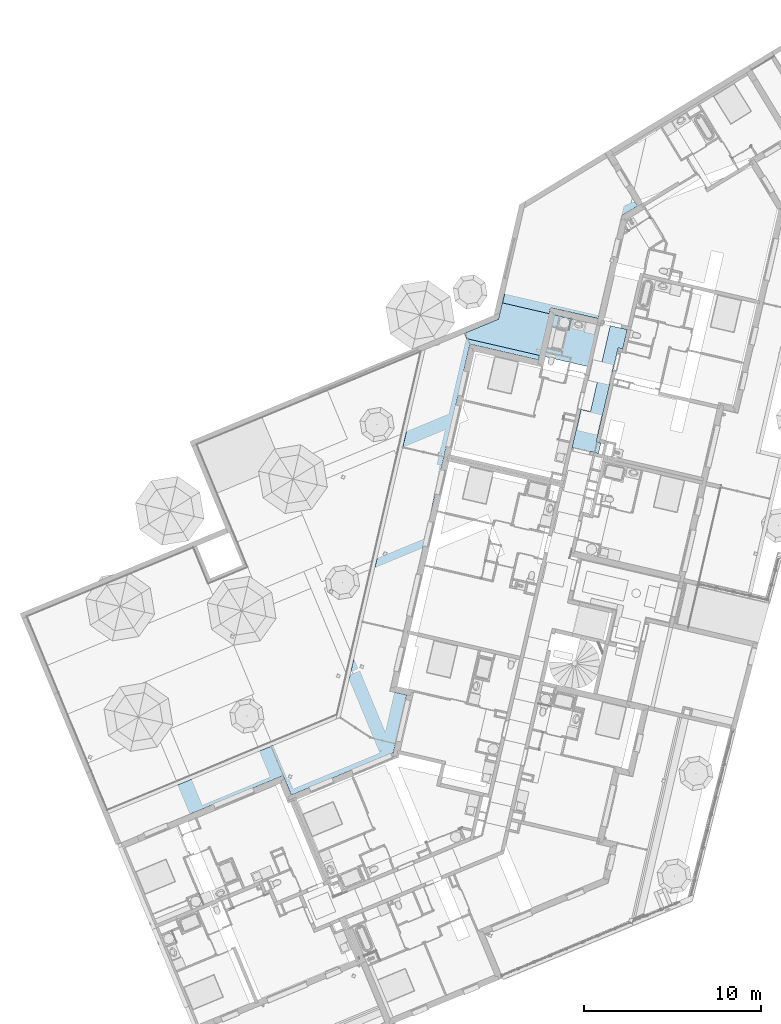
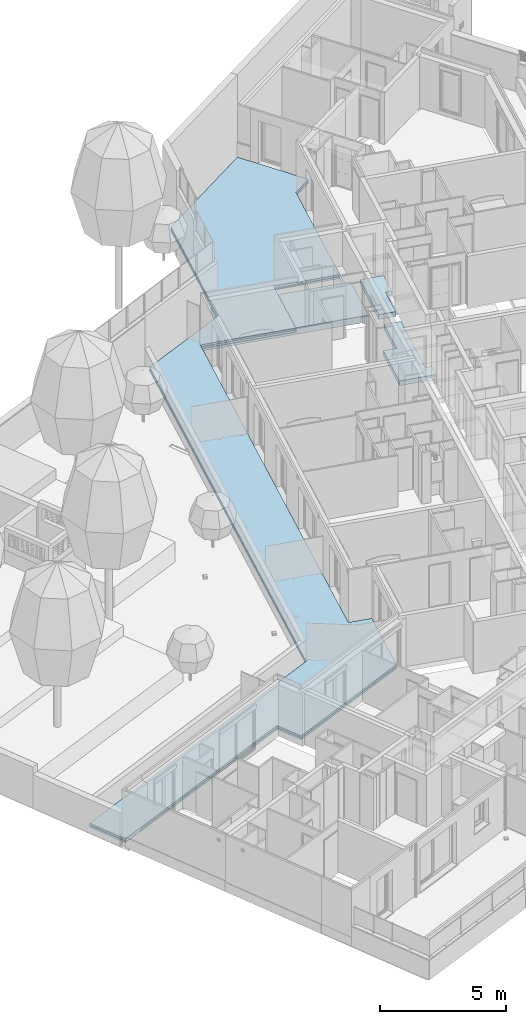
# One storey, part 5 of 119: 4 slabs.
"""IFC2X3 building model written with IfcOpenShell, lengths in metres."""

from ifc_helpers import new_model, entity, si_unit, converted_unit, derived_unit, money_unit, direction, frame, origin_with_axes, place, context, subcontext, project, spatial, faceted_brep, material, material_list, type_object, element, save


model = new_model("IFC2X3")

# Units and contexts
model_context = context("Model", 3, precision=1e-05, world=origin_with_axes(), true_north=direction((0.0, 1.0)))
body_context = subcontext(model_context, "Body", "Model", "MODEL_VIEW")
ifc_project = project(units=[si_unit("LENGTHUNIT", "METRE"), si_unit("AREAUNIT", "SQUARE_METRE"), si_unit("VOLUMEUNIT", "CUBIC_METRE"), converted_unit("PLANEANGLEUNIT", "DEGREE", entity("IfcPlaneAngleMeasure", 0.0174532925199), si_unit("PLANEANGLEUNIT", "RADIAN"), dimensions=[0, 0, 0, 0, 0, 0, 0]), si_unit("SOLIDANGLEUNIT", "STERADIAN"), money_unit("EUR"), converted_unit("TIMEUNIT", "Year", entity("IfcTimeMeasure", 31556926.0), si_unit("TIMEUNIT", "SECOND"), dimensions=[0, 0, 1, 0, 0, 0, 0]), si_unit("MASSUNIT", "GRAM", prefix="KILO"), si_unit("THERMODYNAMICTEMPERATUREUNIT", "DEGREE_CELSIUS"), si_unit("LUMINOUSINTENSITYUNIT", "LUMEN"), si_unit("ENERGYUNIT", "JOULE", prefix="MEGA"), derived_unit("THERMALCONDUCTANCEUNIT", [(si_unit("POWERUNIT", "WATT"), 1), (si_unit("LENGTHUNIT", "METRE"), -1), (si_unit("THERMODYNAMICTEMPERATUREUNIT", "KELVIN"), -1)]), derived_unit("SPECIFICHEATCAPACITYUNIT", [(si_unit("ENERGYUNIT", "JOULE"), 1), (si_unit("MASSUNIT", "GRAM", prefix="KILO"), -1), (si_unit("THERMODYNAMICTEMPERATUREUNIT", "KELVIN"), -1)]), derived_unit("MASSDENSITYUNIT", [(si_unit("MASSUNIT", "GRAM", prefix="KILO"), 1), (si_unit("VOLUMEUNIT", "CUBIC_METRE"), -1)])], contexts=[model_context])

# Site, building, storey
site_placement = place(None, origin_with_axes())
site = spatial("IfcSite", under=ifc_project, at=site_placement, Name="Site", CompositionType="ELEMENT")
building_placement = place(site_placement, origin_with_axes())
building = spatial("IfcBuilding", under=site, at=building_placement, Name="Bâtiment", CompositionType="ELEMENT")
storey_placement = place(building_placement, origin_with_axes())
storey = spatial("IfcBuildingStorey", under=building, at=storey_placement, Name="Rez-de-chaussée", CompositionType="ELEMENT", Elevation=0.0)

# Slabs
ifc_material_1 = material(Name="Finition sol - Dalles terrasse")
ifc_material_2 = material(Name="Divers - Vide")
ifc_material_list_1 = material_list([ifc_material_1, ifc_material_2])
slab_type_1 = type_object("IfcSlabType", Name="6 -Dalles sur plots terrasse du RDC 170", PredefinedType="FLOOR")
slab_1_placement = place(storey_placement, frame((-35.1881854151, -17.8504869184, 0.180000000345), z_axis=(0.0, 0.0, 1.0), x_axis=(1.0, 0.0, 0.0)))
element("IfcSlab", 1, at=slab_1_placement, inside=storey, type_object=slab_type_1, material=ifc_material_list_1, Name="Dalle_006", PredefinedType="FLOOR", context=body_context, shape_type="Brep", body=[
    faceted_brep([(0.905463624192, 0.387932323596, -0.0463667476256), (0.905463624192, 0.387932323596, -0.0170687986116), (0.909846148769, 0.377365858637, -0.0136751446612), (0.909846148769, 0.377365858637, -0.0150858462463), (0.905936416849, 0.386792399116, -0.0181473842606), (0.905936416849, 0.386792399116, -0.0463667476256), (9.17670947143, 3.81849669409, -0.0463667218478), (9.17670947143, 3.81849669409, -0.0170688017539), (9.17045879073, 3.80338639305, -0.0136385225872), (9.17041054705, 3.80350002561, -0.0136751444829), (0.0, 0.0, 0.0), (0.0, 0.0, -0.05), (9.17041054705, 3.80350002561, -0.05), (9.17041054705, 3.80350002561, -0.015085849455), (9.17041055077, 3.80350001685, -0.00346765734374), (9.17041054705, 3.80350002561, 0.0), (9.1704587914, 3.80338639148, -0.0150488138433), (9.17604232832, 3.81688397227, -0.0181473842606), (9.17604232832, 3.81688397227, -0.0199999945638), (9.17604232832, 3.81688397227, -0.0463667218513), (9.63530457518, 2.70958188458, -0.0463667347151), (9.63577736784, 2.7084419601, -0.0463667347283), (15.3999767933, 5.09918906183, -0.0463667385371), (15.4003177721, 5.10066652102, -0.0463667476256), (9.63644451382, 2.71005468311, -0.0463667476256), (9.17718226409, 3.81735676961, -0.0463667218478), (9.63644451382, 2.71005468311, -0.0199999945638), (9.63644451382, 2.71005468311, -0.0170687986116), (9.17855966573, 3.81403579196, -0.0170688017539), (9.63555505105, 2.70790451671, -0.0165806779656), (9.63938261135, 2.69888912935, -0.0136751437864), (9.63938261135, 2.69888912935, 0.0), (9.17624918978, 3.78974776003, 0.0), (9.17624934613, 3.78974739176, -0.00346765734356), (-0.687687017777, 1.65804450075, -0.05), (-0.687687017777, 1.65804450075, 0.0), (12.3845724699, 7.07986711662, -0.05), (12.4015901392, 7.08692532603, -0.05), (17.2197353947, 27.8972189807, -0.05), (21.368233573, 29.617847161, -0.05), (22.8194481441, 35.9059519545, -0.05), (27.5369067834, 38.7732079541, -0.05), (27.8409387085, 38.2729882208, -0.05), (27.8537489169, 38.2807742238, -0.05), (29.2221063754, 36.0293555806, -0.05), (28.3376474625, 35.4917843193, -0.05), (26.9938495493, 29.6691153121, -0.05), (24.3008649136, 30.2752276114, -0.05), (23.6195083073, 27.3229131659, -0.05), (19.7414466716, 28.2179204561, -0.05), (15.2098613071, 8.5825858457, -0.05), (16.1647787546, 8.36220304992, -0.05), (15.4101189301, 5.09234747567, -0.05), (9.63938261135, 2.69888912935, -0.05), (9.63938261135, 2.69888912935, -0.0150858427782), (9.63555504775, 2.70790452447, -0.0180240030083), (9.63491203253, 2.70941907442, -0.0180198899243), (9.17052555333, 3.80354771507, -0.00346765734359), (9.17052555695, 3.80354771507, 0.0), (15.4101189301, 5.09234747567, 0.0), (16.1647787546, 8.36220304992, 0.0), (15.2098613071, 8.5825858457, 0.0), (19.7414466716, 28.2179204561, 0.0), (23.6195083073, 27.3229131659, 0.0), (24.3008649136, 30.2752276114, 0.0), (24.3008831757, 30.2753068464, 0.0), (24.315462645, 30.2719420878, 0.0), (26.9938495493, 29.6691153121, 0.0), (28.3376474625, 35.4917843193, 0.0), (29.2221063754, 36.0293555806, 0.0), (27.8537140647, 38.2807530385, 0.0), (27.8409387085, 38.2729882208, 0.0), (27.5369067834, 38.7732079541, 0.0), (22.8194481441, 35.9059519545, 0.0), (21.368233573, 29.617847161, 0.0), (17.2197353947, 27.8972189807, 0.0), (12.4015901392, 7.08692532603, 0.0), (12.3845724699, 7.07986711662, 0.0), (9.63577736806, 2.70844195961, -0.0181473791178), (9.6353045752, 2.70958188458, -0.0181473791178), (9.6353045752, 2.70958188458, -0.0199999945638), (9.63577736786, 2.7084419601, -0.0199999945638), (15.3999767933, 5.09918906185, -0.0181473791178), (15.3999767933, 5.09918906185, -0.0199999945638), (15.4013773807, 5.09976996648, -0.0199999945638), (15.4013773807, 5.09976996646, -0.0463667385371), (15.1961426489, 8.57401200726, -0.0463667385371), (16.1510601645, 8.35362919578, -0.0463667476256), (16.1522626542, 8.35335167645, -0.0463667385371), (16.1525401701, 8.35455415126, -0.0463667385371), (15.197622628, 8.57493696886, -0.0463667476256), (18.2597186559, 21.8429822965, -0.0463667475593), (18.2585161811, 21.8432598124, -0.0463667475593), (15.1964201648, 8.57521448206, -0.0463667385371), (15.4003177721, 5.10066652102, -0.0199999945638), (15.4003177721, 5.10066652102, -0.0170687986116), (15.4101240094, 5.09236948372, -0.0136805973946), (15.4101189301, 5.09234747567, -0.0136805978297), (27.8537140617, 38.2807530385, -0.00346766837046), (27.8537489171, 38.2807742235, -0.00346766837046), (27.8537489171, 38.2807742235, -0.0136630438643), (27.8439387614, 38.2748116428, -0.0170687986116), (27.8439387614, 38.2748116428, -0.0463667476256), (27.8449933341, 38.2754526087, -0.0463667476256), (27.8449933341, 38.2754526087, -0.0181473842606), (27.8537489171, 38.2807742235, -0.0150736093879), (29.2221063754, 36.0293555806, -0.0150857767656), (28.3376474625, 35.4917843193, -0.0150858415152), (26.9938495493, 29.6691153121, -0.0150858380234), (24.3008649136, 30.2752276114, -0.0150858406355), (26.9838932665, 29.671356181, -0.0181473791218), (26.9838932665, 29.671356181, -0.0463667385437), (26.9826892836, 29.6716271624, -0.0463667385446), (26.9826892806, 29.6716271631, -0.0170687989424), (26.9938495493, 29.6691153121, -0.0136751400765), (24.3154630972, 30.271941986, -0.00346766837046), (24.3008649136, 30.2752276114, -0.00346766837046), (24.3008649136, 30.2752276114, -0.0136751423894), (24.3009438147, 30.275209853, -0.0136511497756), (26.3691788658, 29.8097104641, -0.0170687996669), (26.3691788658, 29.8097104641, -0.046366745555), (26.1476212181, 29.8595766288, -0.0463667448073), (26.1476212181, 29.8595766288, -0.0181473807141), (24.3009438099, 30.2752098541, -0.0150615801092), (23.6195083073, 27.3229131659, -0.0150858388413), (19.7414466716, 28.2179204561, -0.0150858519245), (15.2098613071, 8.5825858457, -0.0150858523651), (18.2719111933, 21.8504312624, -0.0150858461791), (18.2719111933, 21.8504312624, -0.0136751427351), (19.7414467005, 28.2179204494, -0.013675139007), (15.2098613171, 8.58258584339, -0.0136751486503), (18.2696624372, 21.8406873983, -0.0136751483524), (18.2696624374, 21.8406873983, -0.0150858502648), (16.1647787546, 8.36220304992, -0.0150858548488), (15.4101240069, 5.09236947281, -0.0150913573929), (15.4101189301, 5.09234747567, -0.0150858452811), (15.4013773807, 5.09976996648, -0.0181473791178), (16.1647787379, 8.36220297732, -0.0136751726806), (23.6195083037, 27.3229131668, -0.0136751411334), (24.3008831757, 30.2753068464, -0.00346766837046), (28.3376474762, 35.4917843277, -0.0136751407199), (29.2221063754, 36.0293555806, -0.0136751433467), (29.2221061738, 36.029355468, -0.00346766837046), (16.1522626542, 8.35335167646, -0.0181473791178), (16.1522626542, 8.35335167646, -0.0199999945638), (16.1525401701, 8.35455415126, -0.0199999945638), (15.1961426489, 8.57401200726, -0.017068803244), (16.1510601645, 8.35362919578, -0.0170687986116), (16.1510601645, 8.35362919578, -0.0199999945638), (16.1525401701, 8.35455415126, -0.0181473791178), (15.197622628, 8.57493696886, -0.0181473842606), (18.2597186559, 21.8429822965, -0.0181473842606), (18.2585161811, 21.8432598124, -0.0170687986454), (15.1972286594, 8.57871768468, -0.017068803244), (29.206389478, 36.0331893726, -0.0170687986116), (29.206389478, 36.0331893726, -0.0199999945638), (29.206389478, 36.0331893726, -0.0463667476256), (28.3286710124, 35.4982707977, -0.0463667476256), (29.2080850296, 36.0327757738, -0.0463667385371), (29.2074440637, 36.0338303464, -0.0463667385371), (28.3275855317, 35.4990551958, -0.0463667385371), (28.3271978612, 35.4973754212, -0.0463667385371), (29.2080850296, 36.0327757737, -0.0199999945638), (29.2074440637, 36.0338303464, -0.0199999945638), (29.2074440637, 36.0338303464, -0.0181473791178), (29.2080850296, 36.0327757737, -0.0181473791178), (28.3286710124, 35.4982707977, -0.0181473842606), (28.3286710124, 35.4982707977, -0.0199999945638), (28.3275855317, 35.4990551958, -0.017068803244), (28.3260684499, 35.4924816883, -0.017068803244), (23.6109344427, 27.3366318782, -0.0170687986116), (24.2912233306, 30.2843198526, -0.017068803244), (24.2923093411, 30.28902553, -0.017068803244), (24.2923093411, 30.28902553, -0.0463667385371), (23.611735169, 27.3401014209, -0.0463667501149), (23.6129376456, 27.3398239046, -0.0463667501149), (24.2932342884, 30.287545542, -0.0463667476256), (24.2920318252, 30.2878230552, -0.0463667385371), (24.2932342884, 30.287545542, -0.0199999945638), (24.2932342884, 30.287545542, -0.0181473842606), (23.6118593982, 27.3351518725, -0.0181473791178), (23.6106569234, 27.3354293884, -0.0181473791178), (19.7337977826, 28.2301591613, -0.0181473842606), (18.2619673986, 21.8527261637, -0.0181473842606), (18.2619673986, 21.8527261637, -0.0463667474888), (18.2607649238, 21.8530036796, -0.0463667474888), (18.2607649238, 21.8530036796, -0.0170687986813), (19.7317868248, 28.2269334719, -0.017068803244), (19.7328728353, 28.2316391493, -0.017068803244), (23.6109344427, 27.3366318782, -0.0199999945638), (23.6109344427, 27.3366318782, -0.0463667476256), (19.7337977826, 28.2301591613, -0.0463667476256), (23.6106569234, 27.3354293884, -0.0463667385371), (23.6118593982, 27.3351518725, -0.0463667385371), (19.7328728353, 28.2316391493, -0.0463667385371), (19.7325953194, 28.2304366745, -0.0463667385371), (23.6118593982, 27.3351518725, -0.0199999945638), (23.6106569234, 27.3354293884, -0.0199999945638)], [[[0, 1, 2, 3, 4, 5]], [[1, 0, 6, 7]], [[2, 1, 7, 8, 9]], [[10, 11, 12, 13, 3, 2, 9, 14, 15]], [[4, 3, 13, 16, 17]], [[5, 4, 17, 18, 19]], [[0, 5, 19, 20, 21, 22, 23, 24, 25, 6]], [[6, 25, 24, 26, 27, 28, 7]], [[29, 8, 7, 28, 27]], [[8, 29, 30, 31, 32, 33, 14, 9]], [[34, 11, 10, 35]], [[11, 34, 36, 37, 38, 39, 40, 41, 42, 43, 44, 45, 46, 47, 48, 49, 50, 51, 52, 53, 12]], [[16, 13, 12, 53, 54, 55, 56]], [[14, 57, 58, 15]], [[35, 10, 15, 58, 32, 31, 59, 60, 61, 62, 63, 64, 65, 66, 67, 68, 69, 70, 71, 72, 73, 74, 75, 76, 77]], [[17, 16, 56, 55, 78, 79]], [[19, 18, 17, 79, 80, 81, 21, 20]], [[21, 81, 78, 82, 83, 84, 85, 22]], [[86, 87, 23, 22, 85, 88, 89, 90, 91, 92, 93]], [[26, 24, 23, 94, 95, 27]], [[29, 27, 95, 96, 97, 30]], [[31, 30, 97, 59]], [[32, 58, 57, 33]], [[57, 14, 33]], [[34, 35, 77, 36]], [[37, 36, 77, 76]], [[38, 37, 76, 75]], [[38, 75, 74, 39]], [[40, 39, 74, 73]], [[40, 73, 72, 41]], [[71, 42, 41, 72]], [[42, 71, 70, 98, 99, 100, 101, 102, 103, 104, 105, 43]], [[106, 44, 43, 105]], [[45, 44, 106, 107]], [[108, 46, 45, 107]], [[109, 47, 46, 108, 110, 111, 112, 113, 114, 67, 66, 115, 116, 117, 118, 119, 120, 121, 122, 123]], [[124, 48, 47, 109]], [[49, 48, 124, 125]], [[126, 50, 49, 125, 127, 128, 129, 62, 61, 130, 131, 132]], [[51, 50, 126, 133]], [[52, 51, 133, 134, 135]], [[54, 53, 52, 135]], [[78, 55, 54, 135, 134, 136, 82]], [[97, 96, 137, 60, 59]], [[130, 61, 60, 137]], [[129, 138, 63, 62]], [[63, 138, 117, 116, 64]], [[64, 116, 139, 65]], [[139, 115, 66, 65]], [[67, 114, 140, 68]], [[140, 141, 142, 69, 68]], [[69, 142, 98, 70]], [[79, 78, 81, 80]], [[84, 83, 82, 136]], [[85, 84, 136, 143, 144, 145, 89, 88]], [[87, 86, 146, 147, 148]], [[94, 23, 87, 148, 147, 95]], [[90, 89, 145, 149, 150]], [[90, 150, 151, 91]], [[91, 151, 132, 131, 152, 92]], [[86, 93, 92, 152, 153, 146]], [[95, 147, 137, 96]], [[98, 142, 99]], [[142, 141, 100, 99]], [[141, 154, 101, 100]], [[155, 156, 102, 101, 154]], [[112, 111, 157, 158, 159, 103, 102, 156, 160, 161]], [[159, 158, 162, 163, 164, 104, 103]], [[164, 165, 106, 105, 104]], [[166, 107, 106, 165]], [[110, 108, 107, 166]], [[111, 110, 166, 167, 157]], [[113, 112, 161, 160, 168, 169]], [[114, 113, 169, 168, 140]], [[139, 116, 115]], [[138, 170, 171, 172, 118, 117]], [[119, 118, 172]], [[172, 173, 120, 119]], [[174, 175, 176, 121, 120, 173, 177]], [[176, 178, 179, 122, 121]], [[123, 122, 179]], [[180, 124, 109, 123, 179]], [[181, 182, 125, 124, 180]], [[182, 183, 127, 125]], [[184, 185, 186, 128, 127, 183]], [[128, 186, 187, 188, 129]], [[146, 153, 152, 131, 130]], [[150, 126, 132, 151]], [[150, 149, 133, 126]], [[136, 134, 133, 149, 143]], [[147, 146, 130, 137]], [[138, 129, 188, 170]], [[140, 168, 154, 141]], [[145, 144, 143, 149]], [[160, 156, 155, 154, 168]], [[157, 167, 166, 165, 162, 158]], [[162, 165, 164, 163]], [[189, 190, 174, 177, 173, 172, 171, 170]], [[191, 192, 193, 175, 174, 190, 194, 195]], [[193, 196, 180, 179, 178, 176, 175]], [[192, 191, 182, 181, 197, 196, 193]], [[197, 181, 180, 196]], [[184, 183, 182, 191]], [[185, 184, 191, 195]], [[186, 185, 195, 194, 188, 187]], [[190, 189, 170, 188, 194]]]),
    faceted_brep([(27.5497248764, 38.7809987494, -0.130000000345), (27.8537568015, 38.280779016, -0.130000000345), (27.8537568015, 38.280779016, -0.05), (29.2221063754, 36.0293555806, -0.05), (29.2221063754, 36.0293555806, -0.17), (27.5497246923, 38.7809986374, -0.17), (27.5369067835, 38.773207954, -0.130000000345), (27.8409387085, 38.2729882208, -0.130000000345), (27.8409387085, 38.2729882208, -0.05), (27.5369067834, 38.7732079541, -0.05), (22.8194481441, 35.9059519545, -0.05), (21.368233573, 29.617847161, -0.05), (17.2197353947, 27.8972189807, -0.05), (12.4015901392, 7.08692532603, -0.05), (-0.687687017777, 1.65804450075, -0.05), (0.0, 0.0, -0.05), (9.17041054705, 3.80350002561, -0.05), (9.63938261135, 2.69888912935, -0.05), (15.4101189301, 5.09234747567, -0.05), (16.1647787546, 8.36220304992, -0.05), (15.2098613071, 8.5825858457, -0.05), (19.7414466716, 28.2179204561, -0.05), (23.6195083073, 27.3229131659, -0.05), (24.3008649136, 30.2752276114, -0.05), (26.9938495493, 29.6691153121, -0.05), (28.3376474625, 35.4917843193, -0.05), (28.3376474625, 35.4917843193, -0.17), (15.4101189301, 5.09234747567, -0.17), (9.63938261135, 2.69888912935, -0.17), (9.17041054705, 3.80350002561, -0.17), (0.0, 0.0, -0.17), (-0.687687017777, 1.65804450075, -0.17), (12.4015901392, 7.08692532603, -0.17), (17.2197353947, 27.8972189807, -0.17), (21.368233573, 29.617847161, -0.17), (22.8194481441, 35.9059519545, -0.17), (26.9938495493, 29.6691153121, -0.17), (24.3008649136, 30.2752276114, -0.17), (23.6195083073, 27.3229131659, -0.17), (19.7414466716, 28.2179204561, -0.17), (15.2098613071, 8.5825858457, -0.17), (16.1647787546, 8.36220304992, -0.17)], [[[0, 1, 2, 3, 4, 5]], [[1, 0, 6, 7]], [[8, 2, 1, 7]], [[8, 9, 10, 11, 12, 13, 14, 15, 16, 17, 18, 19, 20, 21, 22, 23, 24, 25, 3, 2]], [[4, 3, 25, 26]], [[27, 28, 29, 30, 31, 32, 33, 34, 35, 5, 4, 26, 36, 37, 38, 39, 40, 41]], [[6, 0, 5, 35, 10, 9]], [[9, 8, 7, 6]], [[34, 11, 10, 35]], [[33, 12, 11, 34]], [[32, 13, 12, 33]], [[31, 14, 13, 32]], [[30, 15, 14, 31]], [[29, 16, 15, 30]], [[28, 17, 16, 29]], [[27, 18, 17, 28]], [[41, 19, 18, 27]], [[40, 20, 19, 41]], [[39, 21, 20, 40]], [[38, 22, 21, 39]], [[37, 23, 22, 38]], [[36, 24, 23, 37]], [[26, 25, 24, 36]]]),
])
ifc_material_3 = material(Name="Béton")
slab_type_2 = type_object("IfcSlabType", Name="Béton 320", PredefinedType="FLOOR")
slab_2_placement = place(storey_placement, frame((-15.4036122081, 10.1146143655, 0.0), z_axis=(0.0, 0.0, 1.0), x_axis=(1.0, 0.0, 0.0)))
element("IfcSlab", 2, at=slab_2_placement, inside=storey, type_object=slab_type_2, material=ifc_material_3, Name="Pré-dalle préfabriquée pour dalle béton", PredefinedType="FLOOR", context=body_context, shape_type="Brep", body=[
    faceted_brep([(6.91938752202, -1.08625003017, 0.0), (6.91938752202, -1.08625003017, -0.06), (7.46498026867, 1.27780035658, -0.06), (7.46498026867, 1.27780035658, 0.0), (6.59627212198, -1.01167910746, -0.32), (6.59627212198, -1.01167910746, -0.06), (-0.229142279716, 0.563539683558, 0.0), (-0.229142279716, 0.563539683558, -0.32), (7.14031022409, 1.35273007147, -0.06), (7.14031022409, 1.35273007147, -0.32), (1.78430205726, 2.58882860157, -0.32), (1.78430205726, 2.58882860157, 0.0), (-0.358556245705, 0.863425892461, 0.0), (-0.230885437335, 0.555986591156, 0.0), (1.57078100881, 1.66364306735, 0.0), (-0.230885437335, 0.555986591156, -0.32), (-0.358556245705, 0.863425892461, -0.32), (1.57078100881, 1.66364306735, -0.32)], [[[0, 1, 2, 3]], [[4, 5, 1, 0, 6, 7]], [[5, 8, 2, 1]], [[2, 8, 9, 10, 11, 3]], [[12, 13, 6, 0, 3, 11, 14]], [[4, 9, 8, 5]], [[15, 7, 6, 13]], [[10, 9, 4, 7, 15, 16, 17]], [[14, 11, 10, 17]], [[16, 15, 13, 12]], [[12, 14, 17, 16]]]),
])
slab_type_3 = type_object("IfcSlabType", Name="Béton 230", PredefinedType="FLOOR")
slab_3_placement = place(storey_placement, frame((-8.73252140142, 8.57506059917, -0.06), z_axis=(0.0, 0.0, 1.0), x_axis=(1.0, 0.0, 0.0)))
element("IfcSlab", 3, at=slab_3_placement, inside=storey, type_object=slab_type_3, material=ifc_material_3, Name="Pré-dalle préfabriquée pour dalle béton", PredefinedType="FLOOR", context=body_context, shape_type="Brep", body=[
    faceted_brep([(1.19436480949, -0.483436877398, -0.23), (0.49900718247, -0.322957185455, -0.23), (0.499007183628, -0.322957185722, 0.0), (1.19436480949, -0.483436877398, 0.0), (-0.4382481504, -1.89892661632, -0.23), (0.107491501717, -2.02449843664, -0.23), (0.439406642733, -3.7471398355, -0.23), (0.700439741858, -3.80738297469, -0.23), (0.563158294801, -4.40222273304, -0.23), (0.301731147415, -4.34188869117, -0.23), (0.303979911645, -4.33214487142, -0.23), (-0.933872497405, -4.04646423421, -0.23), (0.107491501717, -2.02449843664, 0.0), (-0.4382481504, -1.89892661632, 0.0), (-0.933872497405, -4.04646423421, 0.0), (0.303979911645, -4.33214487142, 0.0), (0.301731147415, -4.34188869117, 0.0), (0.563158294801, -4.40222273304, 0.0), (0.700439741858, -3.80738297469, 0.0), (0.439406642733, -3.7471398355, 0.0)], [[[0, 1, 2, 3]], [[4, 5, 1, 0, 6, 7, 8, 9, 10, 11]], [[5, 12, 2, 1]], [[2, 12, 13, 14, 15, 16, 17, 18, 19, 3]], [[6, 0, 3, 19]], [[4, 13, 12, 5]], [[19, 18, 7, 6]], [[18, 17, 8, 7]], [[17, 16, 9, 8]], [[16, 15, 10, 9]], [[15, 14, 11, 10]], [[14, 13, 4, 11]]]),
    faceted_brep([(1.20313214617, 2.72290611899, -0.23), (1.20001008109, 2.72362665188, -0.23), (1.200010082, 2.72362665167, 0.0), (1.20313214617, 2.72290611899, 0.0), (1.35212277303, 0.198554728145, -0.23), (0.655971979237, 0.359217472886, -0.23), (1.22963983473, 2.83776378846, -0.23), (2.18692138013, 2.61683538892, -0.23), (1.93014777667, 1.52093504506, -0.23), (1.67180680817, 1.58055677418, -0.23), (0.655971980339, 0.359217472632, 0.0), (1.35212277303, 0.198554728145, 0.0), (1.67180680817, 1.58055677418, 0.0), (1.93014777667, 1.52093504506, 0.0), (2.18692138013, 2.61683538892, 0.0), (1.22963983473, 2.83776378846, 0.0)], [[[0, 1, 2, 3]], [[4, 5, 1, 0, 6, 7, 8, 9]], [[5, 10, 2, 1]], [[3, 2, 10, 11, 12, 13, 14, 15]], [[0, 3, 15, 6]], [[11, 10, 5, 4]], [[7, 6, 15, 14]], [[14, 13, 8, 7]], [[13, 12, 9, 8]], [[12, 11, 4, 9]]]),
])
ifc_material_4 = material(Name="Etanchéité - Bitume")
ifc_material_list_2 = material_list([ifc_material_2, ifc_material_4])
slab_type_4 = type_object("IfcSlabType", Name="6 -Etanchéité RDC non isolée sous dalles sur plots 90", PredefinedType="FLOOR")
slab_4_placement = place(storey_placement, frame((-35.196294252, -17.8700891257, 0.09), z_axis=(0.0, 0.0, 1.0), x_axis=(1.0, 0.0, 0.0)))
element("IfcSlab", 4, at=slab_4_placement, inside=storey, type_object=slab_type_4, material=ifc_material_list_2, Name="Dalle_006", PredefinedType="FLOOR", context=body_context, shape_type="Brep", body=[
    faceted_brep([(9.63566646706, 2.70817383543, 0.0), (15.4225417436, 5.1083259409, 0.0), (16.1788840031, 8.38555280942, 5.06413577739e-10), (15.223966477, 8.60593562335, -2.29764340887e-09), (15.2262152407, 8.61567950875, -2.29764340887e-09), (18.2826432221, 21.859165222, 0.0), (18.2923870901, 21.8569164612, 0.0), (18.2946358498, 21.8666603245, 0.0), (18.2848919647, 21.8689090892, 0.0), (19.7533030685, 28.2315263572, 0.0), (23.631364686, 27.3365190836, 2.73719047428e-10), (23.63586221, 27.3560068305, 8.21153811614e-10), (24.3104541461, 30.2790099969, 8.21153811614e-10), (24.3127395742, 30.2889127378, 0.0), (26.115560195, 29.8728446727, 0.0), (27.0034632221, 29.6730035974, 0.0), (28.3470128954, 35.4945969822, -2.2923718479e-09), (28.3501542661, 35.5082085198, -2.29764340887e-09), (29.2370846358, 36.0472819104, 5.22275556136e-10), (27.8660955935, 38.3029521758, 0.0), (27.8490475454, 38.292590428, 0.0), (27.5372248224, 38.8056282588, 0.0), (22.8143630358, 35.9350882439, 0.0), (21.3634630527, 29.6483465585, 0.0), (17.2149710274, 27.9277209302, 0.0), (12.4097051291, 7.10653009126, 0.0), (12.3926813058, 7.09946932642, 0.0), (-0.693433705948, 1.67190002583, 0.0), (-0.00574668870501, 0.013855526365, 0.0), (0.917954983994, 0.396968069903, 0.0), (0.919870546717, 0.392349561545, 0.0), (9.1759314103, 3.81661584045, 0.0), (9.63566646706, 2.70817383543, -0.08), (15.4225417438, 5.10832594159, -0.08), (16.1788840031, 8.38555280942, -0.08), (15.223966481, 8.60593562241, -0.08), (18.2826432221, 21.859165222, -0.08), (18.2923870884, 21.8569164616, -0.08), (18.2946358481, 21.8666603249, -0.08), (18.2848919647, 21.8689090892, -0.08), (19.7533030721, 28.2315263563, -0.08), (23.631364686, 27.3365190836, -0.08), (24.3127395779, 30.288912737, -0.08), (26.115560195, 29.8728446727, -0.08), (27.0034632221, 29.6730035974, -0.08), (28.3501542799, 35.5082085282, -0.08), (29.2370846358, 36.0472819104, -0.08), (27.8660955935, 38.3029521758, -0.08), (27.8618656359, 38.3003812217, -0.08), (27.8618656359, 38.3003812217, -0.0400000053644), (27.8490475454, 38.292590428, -0.04), (27.537224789, 38.8056283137, -0.04), (27.5500428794, 38.8134191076, -0.0400000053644), (27.5500429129, 38.8134190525, -0.08), (22.8143630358, 35.9350882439, -0.08), (21.3634630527, 29.6483465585, -0.08), (17.2149710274, 27.9277209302, -0.08), (12.4097051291, 7.10653009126, -0.08), (12.3926813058, 7.09946932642, -0.08), (-0.693433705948, 1.67190002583, -0.08), (-0.00574668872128, 0.0138555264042, -0.08), (0.917954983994, 0.396968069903, -0.08), (0.919870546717, 0.392349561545, -0.08), (9.17593140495, 3.81661583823, -0.08)], [[[0, 1, 2, 3, 4, 5, 6, 7, 8, 9, 10, 11, 12, 13, 14, 15, 16, 17, 18, 19, 20, 21, 22, 23, 24, 25, 26, 27, 28, 29, 30, 31]], [[0, 32, 33, 1]], [[34, 2, 1, 33]], [[34, 35, 3, 2]], [[35, 36, 5, 4, 3]], [[5, 36, 37, 6]], [[38, 7, 6, 37]], [[39, 8, 7, 38]], [[40, 9, 8, 39]], [[9, 40, 41, 10]], [[12, 11, 10, 41, 42, 13]], [[42, 43, 14, 13]], [[15, 14, 43, 44]], [[44, 45, 17, 16, 15]], [[46, 18, 17, 45]], [[19, 18, 46, 47]], [[48, 49, 50, 20, 19, 47]], [[50, 51, 21, 20]], [[21, 51, 52, 53, 54, 22]], [[54, 55, 23, 22]], [[55, 56, 24, 23]], [[57, 25, 24, 56]], [[26, 25, 57, 58]], [[58, 59, 27, 26]], [[28, 27, 59, 60]], [[28, 60, 61, 29]], [[29, 61, 62, 30]], [[62, 63, 31, 30]], [[32, 0, 31, 63]], [[32, 63, 62, 61, 60, 59, 58, 57, 56, 55, 54, 53, 48, 47, 46, 45, 44, 43, 42, 41, 40, 39, 38, 37, 36, 35, 34, 33]], [[52, 49, 48, 53]], [[49, 52, 51, 50]]]),
    faceted_brep([(-0.693433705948, 1.67190002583, -0.08), (-0.693433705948, 1.67190002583, -0.09), (-0.00574668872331, 0.0138555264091, -0.09), (-0.00574668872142, 0.0138555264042, -0.08), (12.3926813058, 7.09946932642, -0.09), (12.3926813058, 7.09946932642, -0.08), (0.917954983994, 0.396968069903, -0.09), (12.4097051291, 7.10653009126, -0.09), (17.2149710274, 27.9277209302, -0.09), (21.3634630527, 29.6483465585, -0.09), (21.4463524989, 30.007506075, -0.09), (22.8143630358, 35.9350882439, -0.09), (27.5585883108, 38.8186129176, -0.09), (27.8704110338, 38.3055750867, -0.09), (27.8746409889, 38.3081460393, -0.09), (29.2508239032, 36.0439303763, -0.09), (28.3589502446, 35.5018524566, -0.09), (27.0132193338, 29.6708077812, -0.09), (24.3202346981, 30.2769200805, -0.09), (23.6388598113, 27.324526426, -0.09), (19.7607981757, 28.2195337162, -0.09), (15.2359590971, 8.61343072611, -0.09), (16.1908766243, 8.39304791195, -0.09), (15.4311070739, 5.10105247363, -0.09), (9.63949759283, 2.69893681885, -0.09), (9.17052552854, 3.80354771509, -0.09), (0.923701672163, 0.383112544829, -0.09), (0.917954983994, 0.396968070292, -0.08), (0.923701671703, 0.383112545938, -0.08), (9.17052552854, 3.80354771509, -0.08), (9.63949759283, 2.69893681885, -0.08), (15.4311070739, 5.10105247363, -0.08), (16.1908766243, 8.39304791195, -0.08), (15.2359590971, 8.61343072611, -0.08), (19.7607981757, 28.2195337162, -0.08), (23.6388598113, 27.324526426, -0.08), (24.3202346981, 30.2769200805, -0.08), (27.0132193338, 29.6708077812, -0.08), (28.3589502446, 35.5018524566, -0.08), (29.2508239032, 36.0439303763, -0.08), (27.8746409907, 38.3081460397, -0.08), (27.8704110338, 38.3055750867, -0.08), (27.5585883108, 38.8186129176, -0.08), (22.8143630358, 35.9350882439, -0.08), (21.4463524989, 30.007506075, -0.08), (21.3634630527, 29.6483465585, -0.08), (17.2149710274, 27.9277209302, -0.08), (12.4097051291, 7.10653009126, -0.08)], [[[0, 1, 2, 3]], [[4, 1, 0, 5]], [[6, 2, 1, 4, 7, 8, 9, 10, 11, 12, 13, 14, 15, 16, 17, 18, 19, 20, 21, 22, 23, 24, 25, 26]], [[3, 2, 6, 27]], [[5, 0, 3, 27, 28, 29, 30, 31, 32, 33, 34, 35, 36, 37, 38, 39, 40, 41, 42, 43, 44, 45, 46, 47]], [[47, 7, 4, 5]], [[8, 7, 47, 46]], [[45, 9, 8, 46]], [[10, 9, 45, 44]], [[11, 10, 44, 43]], [[12, 11, 43, 42]], [[41, 13, 12, 42]], [[40, 14, 13, 41]], [[40, 39, 15, 14]], [[38, 16, 15, 39]], [[38, 37, 17, 16]], [[36, 18, 17, 37]], [[35, 19, 18, 36]], [[20, 19, 35, 34]], [[34, 33, 21, 20]], [[22, 21, 33, 32]], [[31, 23, 22, 32]], [[31, 30, 24, 23]], [[29, 25, 24, 30]], [[29, 28, 26, 25]], [[27, 6, 26, 28]]]),
])

save(model, "model.ifc")
